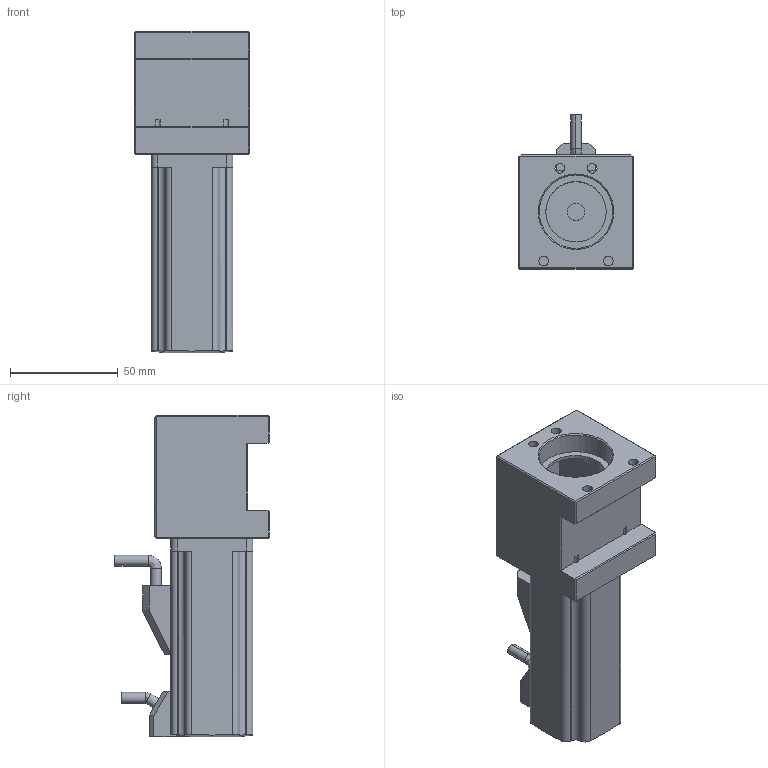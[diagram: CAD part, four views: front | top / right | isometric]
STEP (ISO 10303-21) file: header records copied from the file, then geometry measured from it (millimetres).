
FILE_DESCRIPTION (( 'STEP AP203' ), '1' );
FILE_NAME ('KTH5-100W-BC(100W伺服电机直联).STEP', '2019-12-19T08:55:41', ( '微软用户' ), ( '微软中国' ), 'SwSTEP 2.0', 'SolidWorks 2017', '' );
FILE_SCHEMA (( 'CONFIG_CONTROL_DESIGN' ));
Length unit declared in the file: millimetre
Products named in the file (4): 萇儂釱裔啣; 侂狟MSMD-100W; 电机安装座-修改版; KTH5-100W-BC(100W侜督萇儂眻薊)
Assembly tree (3 placements, depth 2):
  KTH5-100W-BC(100W侜督萇儂眻薊)
    萇儂釱裔啣
    侂狟MSMD-100W
    电机安装座-修改版
Bounding box: 53 x 71.5 x 149 mm (x, y, z)
Volume: 218916 mm3; surface area: 46009.7 mm2
Topology: 3 solids, 3 shells, 234 faces, 606 edges, 379 vertices
Faces by surface type: cylinder 102, plane 102, cone 26, bspline 3, torus 1
Entity records: 7891 total; most frequent: CARTESIAN_POINT 1652, DIRECTION 1243, ORIENTED_EDGE 1192, EDGE_CURVE 596, AXIS2_PLACEMENT_3D 451, VERTEX_POINT 379, LINE 341, VECTOR 341
